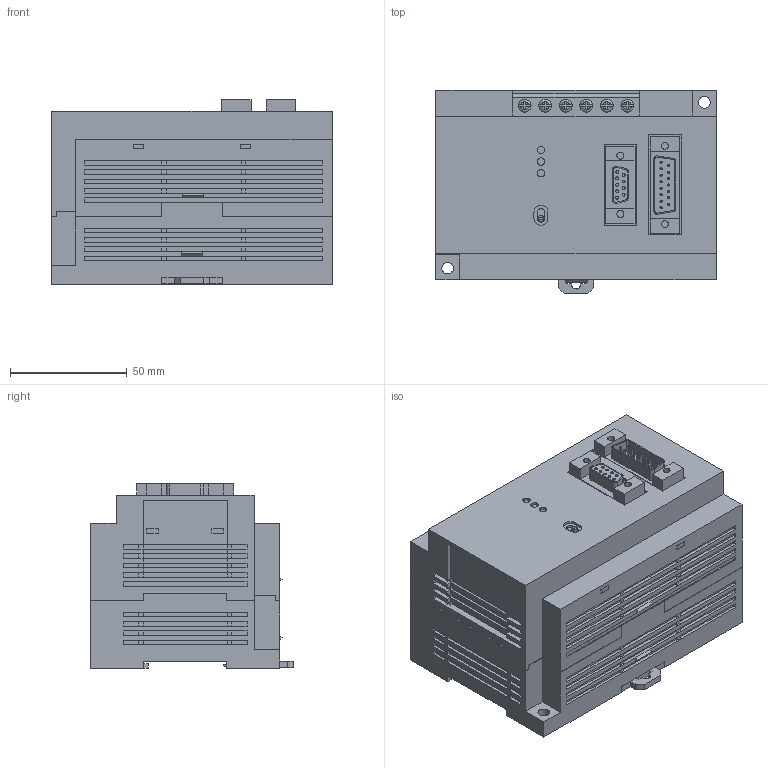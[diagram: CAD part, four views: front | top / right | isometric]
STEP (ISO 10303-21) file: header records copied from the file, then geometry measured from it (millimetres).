
FILE_DESCRIPTION (( 'STEP AP214' ), '1' );
FILE_NAME ('afp8536.stp', '2008-08-28T05:55:38', ( '' ), ( 'PanasonicElectricWorks' ), '', '', '' );
FILE_SCHEMA (( 'AUTOMOTIVE_DESIGN' ));
Length unit declared in the file: millimetre
Products named in the file (1): afp8536
Bounding box: 120 x 86.9 x 79 mm (x, y, z)
Volume: 649170.1 mm3; surface area: 62751.6 mm2
Topology: 1 solids, 1 shells, 1064 faces, 2852 edges, 1870 vertices
Faces by surface type: plane 884, cylinder 138, sphere 30, torus 12
Entity records: 44601 total; most frequent: CARTESIAN_POINT 5919, ORIENTED_EDGE 5704, DIRECTION 5328, EDGE_CURVE 2852, LINE 2458, VECTOR 2458, VERTEX_POINT 1870, AXIS2_PLACEMENT_3D 1435
